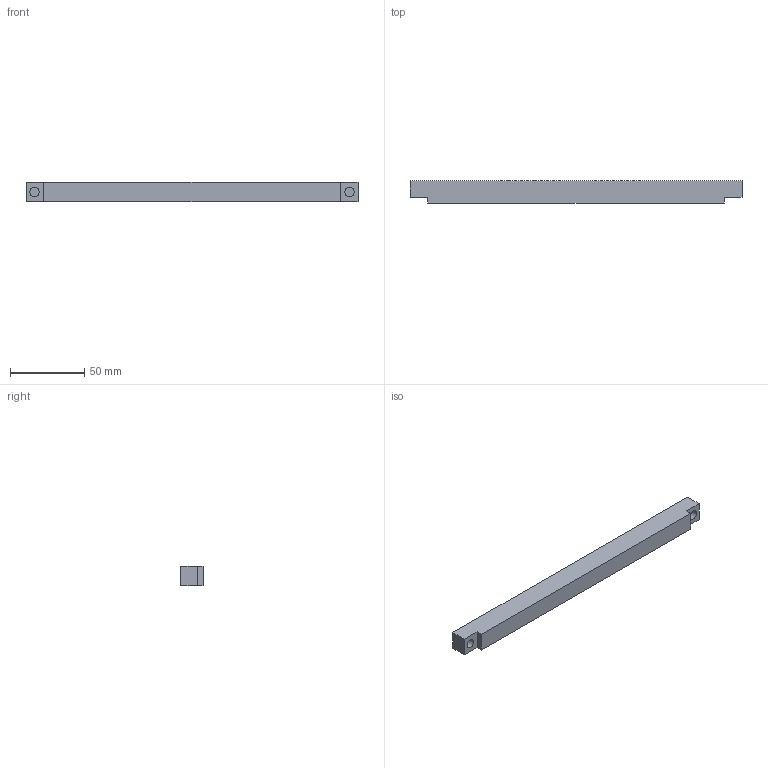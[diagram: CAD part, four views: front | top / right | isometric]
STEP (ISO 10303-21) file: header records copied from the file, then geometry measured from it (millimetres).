
FILE_DESCRIPTION(('Open CASCADE Model'),'2;1');
FILE_NAME('Open CASCADE Shape Model','2026-10-28T13:12:27',('Author'),( 'Open CASCADE'),'Open CASCADE STEP processor 7.9','Open CASCADE 7.9' ,'Unknown');
FILE_SCHEMA(('AUTOMOTIVE_DESIGN { 1 0 10303 214 1 1 1 1 }'));
Length unit declared in the file: millimetre
Products named in the file (1): Open CASCADE STEP translator 7.9 6
Bounding box: 223.4 x 15 x 13 mm (x, y, z)
Volume: 41671.6 mm3; surface area: 13110.5 mm2
Topology: 1 solids, 1 shells, 14 faces, 30 edges, 20 vertices
Faces by surface type: plane 12, cylinder 2
Full cylindrical faces by diameter (mm): 6.4 x2
Entity records: 784 total; most frequent: CARTESIAN_POINT 137, DIRECTION 122, LINE 82, VECTOR 82, ORIENTED_EDGE 60, PCURVE 60, DEFINITIONAL_REPRESENTATION 60, EDGE_CURVE 30
